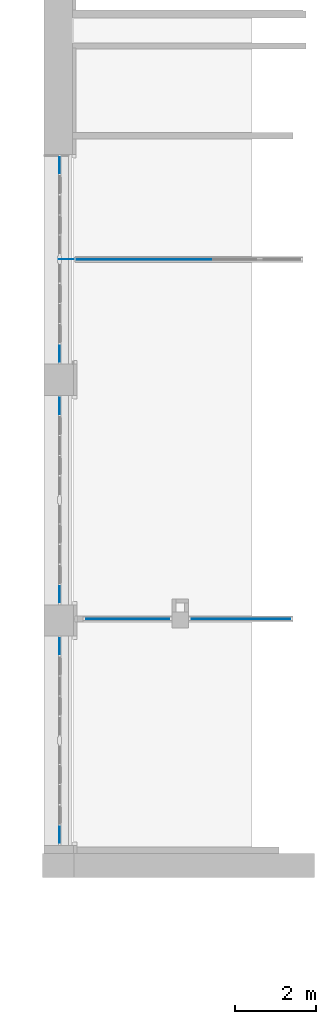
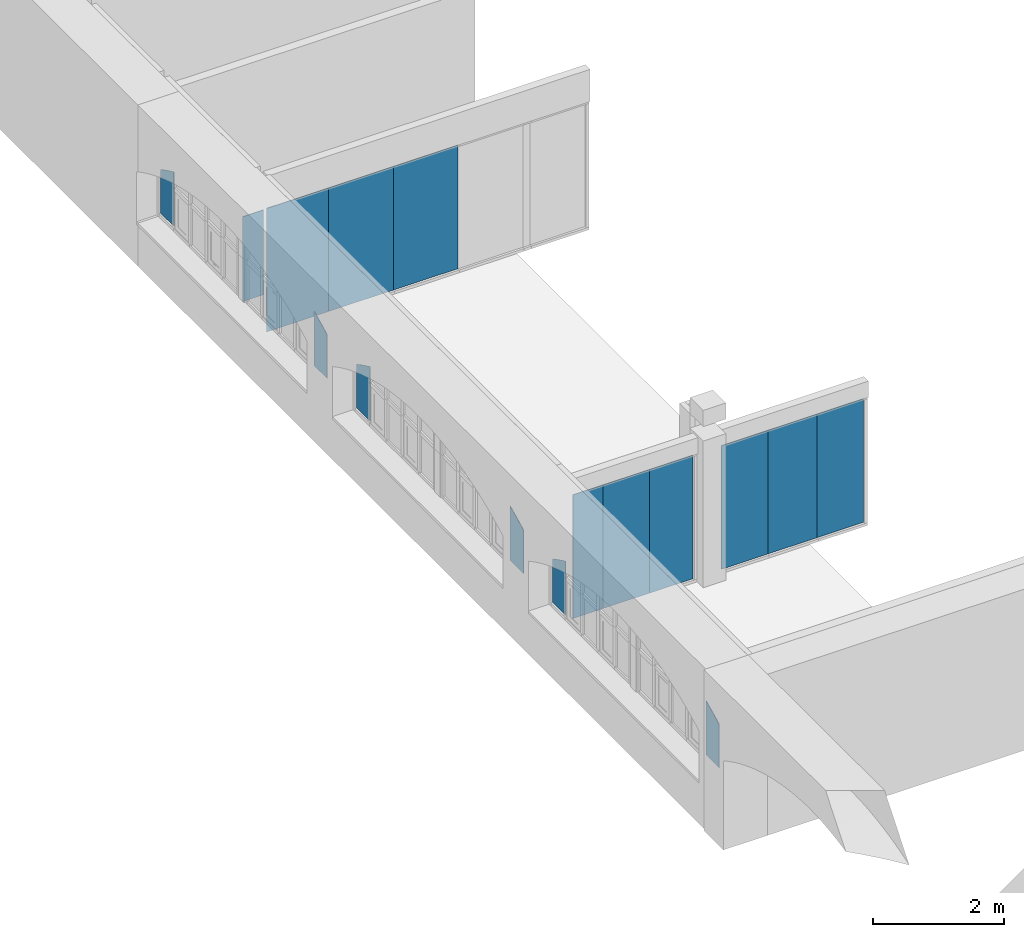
# One storey, part 21 of 32: 16 plates, 7 elements without a shape of their own.
"""IFC2X3 building model written with IfcOpenShell, lengths in millimetres."""

from ifc_helpers import new_model, entity, si_unit, converted_unit, derived_unit, direction, frame, frame_2d, origin, origin_2d_with_axis, place, context, subcontext, project, spatial, polyline, circle_curve, parameter, trimmed, segment, composite_curve, rectangle, outline, extrude, source, transform, mapped, material, type_object, type_shapes, element, aggregate, save


model = new_model("IFC2X3")

# Units and contexts
model_context = context("Model", 3, precision=0.01, world=origin(), true_north=direction((6.123031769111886e-17, 1.0)))
body_context = subcontext(model_context, "Body", "Model", "MODEL_VIEW")
ifc_project = project(units=[si_unit("LENGTHUNIT", "METRE", prefix="MILLI"), si_unit("AREAUNIT", "SQUARE_METRE"), si_unit("VOLUMEUNIT", "CUBIC_METRE"), converted_unit("PLANEANGLEUNIT", "DEGREE", entity("IfcPlaneAngleMeasure", 0.017453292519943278), si_unit("PLANEANGLEUNIT", "RADIAN"), dimensions=[0, 0, 0, 0, 0, 0, 0]), si_unit("MASSUNIT", "GRAM", prefix="KILO"), derived_unit("MASSDENSITYUNIT", [(si_unit("MASSUNIT", "GRAM", prefix="KILO"), 1), (si_unit("LENGTHUNIT", "METRE"), -3)]), derived_unit("IONCONCENTRATIONUNIT", [(si_unit("MASSUNIT", "GRAM", prefix="KILO"), 1), (si_unit("LENGTHUNIT", "METRE"), -3)]), derived_unit("MOMENTOFINERTIAUNIT", [(si_unit("LENGTHUNIT", "METRE"), 4)]), si_unit("TIMEUNIT", "SECOND"), si_unit("FREQUENCYUNIT", "HERTZ"), si_unit("THERMODYNAMICTEMPERATUREUNIT", "DEGREE_CELSIUS"), derived_unit("THERMALTRANSMITTANCEUNIT", [(si_unit("MASSUNIT", "GRAM", prefix="KILO"), 1), (si_unit("THERMODYNAMICTEMPERATUREUNIT", "KELVIN"), -1), (si_unit("TIMEUNIT", "SECOND"), -3)]), derived_unit("THERMALCONDUCTANCEUNIT", [(si_unit("MASSUNIT", "GRAM", prefix="KILO"), 1), (si_unit("THERMODYNAMICTEMPERATUREUNIT", "KELVIN"), -1), (si_unit("TIMEUNIT", "SECOND"), -3), (si_unit("LENGTHUNIT", "METRE"), 1)]), derived_unit("VOLUMETRICFLOWRATEUNIT", [(si_unit("LENGTHUNIT", "METRE", prefix="DECI"), 3), (si_unit("TIMEUNIT", "SECOND"), -1)]), derived_unit("MASSFLOWRATEUNIT", [(si_unit("MASSUNIT", "GRAM", prefix="KILO"), 1), (si_unit("TIMEUNIT", "SECOND"), -1)]), derived_unit("ROTATIONALFREQUENCYUNIT", [(si_unit("TIMEUNIT", "SECOND"), -1)]), si_unit("ELECTRICCURRENTUNIT", "AMPERE"), si_unit("ELECTRICVOLTAGEUNIT", "VOLT"), si_unit("POWERUNIT", "WATT"), si_unit("FORCEUNIT", "NEWTON", prefix="KILO"), si_unit("ILLUMINANCEUNIT", "LUX"), si_unit("LUMINOUSFLUXUNIT", "LUMEN"), si_unit("LUMINOUSINTENSITYUNIT", "CANDELA"), si_unit("ENERGYUNIT", "JOULE"), derived_unit("USERDEFINED", [(si_unit("MASSUNIT", "GRAM", prefix="KILO"), -1), (si_unit("LENGTHUNIT", "METRE"), -2), (si_unit("TIMEUNIT", "SECOND"), 3), (si_unit("LUMINOUSFLUXUNIT", "LUMEN"), 1)]), derived_unit("USERDEFINED", [(si_unit("MASSUNIT", "GRAM", prefix="KILO"), 1), (si_unit("TIMEUNIT", "SECOND"), -3), (si_unit("LENGTHUNIT", "METRE"), 3), (si_unit("ELECTRICCURRENTUNIT", "AMPERE"), -2)]), derived_unit("SOUNDPOWERUNIT", [(si_unit("MASSUNIT", "GRAM", prefix="KILO"), 1), (si_unit("TIMEUNIT", "SECOND"), -3), (si_unit("LENGTHUNIT", "METRE"), 2)]), derived_unit("SOUNDPRESSUREUNIT", [(si_unit("MASSUNIT", "GRAM", prefix="KILO"), 1), (si_unit("LENGTHUNIT", "METRE"), -1), (si_unit("TIMEUNIT", "SECOND"), -2)]), derived_unit("LINEARVELOCITYUNIT", [(si_unit("LENGTHUNIT", "METRE"), 1), (si_unit("TIMEUNIT", "SECOND"), -1)]), si_unit("PRESSUREUNIT", "PASCAL"), derived_unit("USERDEFINED", [(si_unit("MASSUNIT", "GRAM", prefix="KILO"), 1), (si_unit("LENGTHUNIT", "METRE"), -2), (si_unit("TIMEUNIT", "SECOND"), -2)]), derived_unit("LINEARFORCEUNIT", [(si_unit("MASSUNIT", "GRAM", prefix="KILO"), 1), (si_unit("TIMEUNIT", "SECOND"), -2)]), derived_unit("PLANARFORCEUNIT", [(si_unit("MASSUNIT", "GRAM", prefix="KILO"), 1), (si_unit("LENGTHUNIT", "METRE"), -1), (si_unit("TIMEUNIT", "SECOND"), -2)]), derived_unit("SPECIFICHEATCAPACITYUNIT", [(si_unit("THERMODYNAMICTEMPERATUREUNIT", "KELVIN"), -1), (si_unit("LENGTHUNIT", "METRE"), 2), (si_unit("TIMEUNIT", "SECOND"), -2)]), derived_unit("HEATFLUXDENSITYUNIT", [(si_unit("MASSUNIT", "GRAM", prefix="KILO"), 1), (si_unit("TIMEUNIT", "SECOND"), -3)]), derived_unit("HEATINGVALUEUNIT", [(si_unit("LENGTHUNIT", "METRE"), 2), (si_unit("TIMEUNIT", "SECOND"), -2)]), derived_unit("VAPORPERMEABILITYUNIT", [(si_unit("LENGTHUNIT", "METRE"), -1), (si_unit("TIMEUNIT", "SECOND"), 1)]), derived_unit("DYNAMICVISCOSITYUNIT", [(si_unit("MASSUNIT", "GRAM", prefix="KILO"), 1), (si_unit("TIMEUNIT", "SECOND"), -1), (si_unit("LENGTHUNIT", "METRE"), -1)]), derived_unit("THERMALEXPANSIONCOEFFICIENTUNIT", [(si_unit("THERMODYNAMICTEMPERATUREUNIT", "KELVIN"), -1)]), derived_unit("MODULUSOFELASTICITYUNIT", [(si_unit("MASSUNIT", "GRAM", prefix="KILO"), 1), (si_unit("LENGTHUNIT", "METRE"), -1), (si_unit("TIMEUNIT", "SECOND"), -2)]), derived_unit("ISOTHERMALMOISTURECAPACITYUNIT", [(si_unit("MASSUNIT", "GRAM", prefix="KILO"), -1), (si_unit("LENGTHUNIT", "METRE"), 3)]), derived_unit("MOISTUREDIFFUSIVITYUNIT", [(si_unit("TIMEUNIT", "SECOND"), -1), (si_unit("LENGTHUNIT", "METRE"), 2)]), derived_unit("MASSPERLENGTHUNIT", [(si_unit("MASSUNIT", "GRAM", prefix="KILO"), 1), (si_unit("LENGTHUNIT", "METRE"), -1)]), derived_unit("THERMALRESISTANCEUNIT", [(si_unit("MASSUNIT", "GRAM", prefix="KILO"), -1), (si_unit("TIMEUNIT", "SECOND"), 3), (si_unit("THERMODYNAMICTEMPERATUREUNIT", "KELVIN"), 1)]), derived_unit("ACCELERATIONUNIT", [(si_unit("LENGTHUNIT", "METRE"), 1), (si_unit("TIMEUNIT", "SECOND"), -2)]), derived_unit("ANGULARVELOCITYUNIT", [(si_unit("TIMEUNIT", "SECOND"), -1), (si_unit("PLANEANGLEUNIT", "RADIAN"), 1)]), derived_unit("LINEARSTIFFNESSUNIT", [(si_unit("MASSUNIT", "GRAM", prefix="KILO"), 1), (si_unit("TIMEUNIT", "SECOND"), -2)]), derived_unit("WARPINGCONSTANTUNIT", [(si_unit("LENGTHUNIT", "METRE"), 6)]), derived_unit("LINEARMOMENTUNIT", [(si_unit("MASSUNIT", "GRAM", prefix="KILO"), 1), (si_unit("LENGTHUNIT", "METRE"), 1), (si_unit("TIMEUNIT", "SECOND"), -2)]), derived_unit("TORQUEUNIT", [(si_unit("MASSUNIT", "GRAM", prefix="KILO"), 1), (si_unit("LENGTHUNIT", "METRE"), 2), (si_unit("TIMEUNIT", "SECOND"), -2)])], contexts=[model_context])

# Site, building, storey
site_placement = place(None, origin())
site = spatial("IfcSite", under=ifc_project, at=site_placement, Name="Default", CompositionType="ELEMENT")
building_placement = place(site_placement, origin())
building = spatial("IfcBuilding", under=site, at=building_placement, Name="Eesti Rahvusraamatukogu hoone renoveerimise projekteerimistööd", CompositionType="ELEMENT")
storey_placement = place(building_placement, frame((0.0, 0.0, 4950.000000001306)))
storey = spatial("IfcBuildingStorey", under=building, at=storey_placement, Name="2. korrus", CompositionType="ELEMENT", Elevation=4950.000000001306)

# Curtain wall, plates
curtain_wall_type_1 = type_object("IfcCurtainWallType", Name="Curtain Wall:VLS Klaasvahesein profiilita 38db", PredefinedType="NOTDEFINED")
curtain_wall_1_placement = place(storey_placement, frame((0.0, 0.0, -4950.000000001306)))
curtain_wall_1 = element("IfcCurtainWall", 1, at=curtain_wall_1_placement, inside=storey, type_object=curtain_wall_type_1, Name="Curtain Wall:VLS Klaasvahesein profiilita 38db", ObjectType="Curtain Wall:VLS Klaasvahesein profiilita 38db")
ifc_material_1 = material(Name="EST. Klaas. 1x. E-korpus")
plate_type_1 = type_object("IfcPlateType", Name="System Panel:VLS Klaas KAR/LAM 6+1+6", PredefinedType="CURTAIN_PANEL", material=ifc_material_1)
shared_shape_1 = source(origin(), body_context, "Body", "SweptSolid", [
    extrude(rectangle(XDim=13.000000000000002, YDim=1090.0000001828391, at=origin_2d_with_axis()), frame((0.0, 0.0, 0.0), z_axis=(0.0, 0.0, 1.0), x_axis=(0.0, 1.0, 0.0)), (0.0, 0.0, 1.0), 2300.0000000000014),
])
type_shapes(plate_type_1, [shared_shape_1])
plate_1_placement = place(curtain_wall_1_placement, frame((-35444.99999990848, 21350.0, 5000.0)))
plate_1 = element("IfcPlate", 2, at=plate_1_placement, type_object=plate_type_1, material=ifc_material_1, Name="System Panel:VLS Klaas KAR/LAM 6+1+6", ObjectType="System Panel:VLS Klaas KAR/LAM 6+1+6", context=body_context, shape_type="MappedRepresentation", body=[
    mapped(shared_shape_1, transform((0.0, 0.0, 0.0), scale=1.0)),
])
plate_type_2 = type_object("IfcPlateType", Name="System Panel:VLS Klaas KAR/LAM 6+1+6", PredefinedType="CURTAIN_PANEL", material=ifc_material_1)
shared_shape_2 = source(origin(), body_context, "Body", "SweptSolid", [
    extrude(rectangle(XDim=13.000000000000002, YDim=1139.9999998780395, at=frame_2d((0.0, 5.684341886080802e-14), x_axis=(1.0, 0.0))), frame((0.0, 0.0, 0.0), z_axis=(0.0, 0.0, 1.0), x_axis=(0.0, 1.0, 0.0)), (0.0, 0.0, 1.0), 2300.0000000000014),
])
type_shapes(plate_type_2, [shared_shape_2])
plate_2_placement = place(curtain_wall_1_placement, frame((-34329.99999987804, 21350.0, 5000.0)))
plate_2 = element("IfcPlate", 3, at=plate_2_placement, type_object=plate_type_2, material=ifc_material_1, Name="System Panel:VLS Klaas KAR/LAM 6+1+6", ObjectType="System Panel:VLS Klaas KAR/LAM 6+1+6", context=body_context, shape_type="MappedRepresentation", body=[
    mapped(shared_shape_2, transform((0.0, 0.0, 0.0), scale=1.0)),
])
plate_3_placement = place(curtain_wall_1_placement, frame((-33190.0, 21350.0, 5000.0)))
plate_3 = element("IfcPlate", 4, at=plate_3_placement, type_object=plate_type_2, material=ifc_material_1, Name="System Panel:VLS Klaas KAR/LAM 6+1+6", ObjectType="System Panel:VLS Klaas KAR/LAM 6+1+6", context=body_context, shape_type="MappedRepresentation", body=[
    mapped(shared_shape_2, transform((0.0, 0.0, 0.0), scale=1.0)),
])
aggregate(curtain_wall_1, [plate_1, plate_2, plate_3])

# Curtain wall, plate
curtain_wall_type_2 = type_object("IfcCurtainWallType", Name="Curtain Wall:VLS avatäide profiilita klaas", PredefinedType="NOTDEFINED")
curtain_wall_2_placement = place(storey_placement, frame((0.0, 0.0, -4950.000000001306)))
curtain_wall_2 = element("IfcCurtainWall", 5, at=curtain_wall_2_placement, inside=storey, type_object=curtain_wall_type_2, Name="Curtain Wall:VLS avatäide profiilita klaas", ObjectType="Curtain Wall:VLS avatäide profiilita klaas")
ifc_material_2 = material(Name="EST. Klaas. 3x. Default")
plate_type_3 = type_object("IfcPlateType", Name="System Panel:Peegelaknad 6-16-4-16-4, paneel", PredefinedType="CURTAIN_PANEL", material=ifc_material_2)
shared_shape_3 = source(origin(), body_context, "Body", "SweptSolid", [
    extrude(rectangle(XDim=10.0, YDim=370.0000000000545, at=origin_2d_with_axis()), frame((0.0, 0.0, 0.0), z_axis=(0.0, 0.0, 1.0), x_axis=(0.0, 1.0, 0.0)), (0.0, 0.0, 1.0), 1579.999999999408),
])
type_shapes(plate_type_3, [shared_shape_3])
plate_4_placement = place(curtain_wall_2_placement, frame((-36225.0, 21352.000000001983, 5710.000000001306), z_axis=(0.0, 0.0, 1.0), x_axis=(-1.0, 0.0, 0.0)))
plate_4 = element("IfcPlate", 6, at=plate_4_placement, type_object=plate_type_3, material=ifc_material_2, Name="System Panel:Peegelaknad 6-16-4-16-4, paneel", ObjectType="System Panel:Peegelaknad 6-16-4-16-4, paneel", context=body_context, shape_type="MappedRepresentation", body=[
    mapped(shared_shape_3, transform((0.0, 0.0, 0.0), scale=1.0)),
])
aggregate(curtain_wall_2, [plate_4])

# Curtain wall, plates
curtain_wall_3_placement = place(storey_placement, frame((0.0, 0.0, -4950.000000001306)))
curtain_wall_3 = element("IfcCurtainWall", 7, at=curtain_wall_3_placement, inside=storey, type_object=curtain_wall_type_1, Name="Curtain Wall:VLS Klaasvahesein profiilita 38db", ObjectType="Curtain Wall:VLS Klaasvahesein profiilita 38db")
plate_type_4 = type_object("IfcPlateType", Name="System Panel:VLS Klaas KAR/LAM 6+1+6", PredefinedType="CURTAIN_PANEL", material=ifc_material_1)
shared_shape_4 = source(origin(), body_context, "Body", "SweptSolid", [
    extrude(rectangle(XDim=13.000000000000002, YDim=532.1666667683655, at=origin_2d_with_axis()), frame((0.0, 0.0, 0.0), z_axis=(0.0, 0.0, 1.0), x_axis=(0.0, 1.0, 0.0)), (0.0, 0.0, 1.0), 2300.0000000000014),
])
type_shapes(plate_type_4, [shared_shape_4])
plate_5_placement = place(curtain_wall_3_placement, frame((-35489.41666661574, 12420.0, 5000.0)))
plate_5 = element("IfcPlate", 8, at=plate_5_placement, type_object=plate_type_4, material=ifc_material_1, Name="System Panel:VLS Klaas KAR/LAM 6+1+6", ObjectType="System Panel:VLS Klaas KAR/LAM 6+1+6", context=body_context, shape_type="MappedRepresentation", body=[
    mapped(shared_shape_4, transform((0.0, 0.0, 0.0), scale=1.0)),
])
plate_type_5 = type_object("IfcPlateType", Name="System Panel:VLS Klaas KAR/LAM 6+1+6", PredefinedType="CURTAIN_PANEL", material=ifc_material_1)
shared_shape_5 = source(origin(), body_context, "Body", "SweptSolid", [
    extrude(rectangle(XDim=13.000000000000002, YDim=816.6666667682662, at=origin_2d_with_axis()), frame((0.0, 0.0, 0.0), z_axis=(0.0, 0.0, 1.0), x_axis=(0.0, 1.0, 0.0)), (0.0, 0.0, 1.0), 2300.0000000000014),
])
type_shapes(plate_type_5, [shared_shape_5])
plate_6_placement = place(curtain_wall_3_placement, frame((-34815.0, 12420.0, 5000.0)))
plate_6 = element("IfcPlate", 9, at=plate_6_placement, type_object=plate_type_5, material=ifc_material_1, Name="System Panel:VLS Klaas KAR/LAM 6+1+6", ObjectType="System Panel:VLS Klaas KAR/LAM 6+1+6", context=body_context, shape_type="MappedRepresentation", body=[
    mapped(shared_shape_5, transform((0.0, 0.0, 0.0), scale=1.0)),
])

curtain_wall_4_placement = place(storey_placement, frame((0.0, 0.0, -4950.000000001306)))
curtain_wall_4 = element("IfcCurtainWall", 10, at=curtain_wall_4_placement, inside=storey, type_object=curtain_wall_type_1, Name="Curtain Wall:VLS Klaasvahesein profiilita 38db", ObjectType="Curtain Wall:VLS Klaasvahesein profiilita 38db")
plate_7_placement = place(curtain_wall_4_placement, frame((-32731.666666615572, 12420.0, 5000.0)))
plate_7 = element("IfcPlate", 11, at=plate_7_placement, type_object=plate_type_5, material=ifc_material_1, Name="System Panel:VLS Klaas KAR/LAM 6+1+6", ObjectType="System Panel:VLS Klaas KAR/LAM 6+1+6", context=body_context, shape_type="MappedRepresentation", body=[
    mapped(shared_shape_5, transform((0.0, 0.0, 0.0), scale=1.0)),
])
plate_8_placement = place(curtain_wall_4_placement, frame((-31048.33333338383, 12420.0, 5000.0)))
plate_8 = element("IfcPlate", 12, at=plate_8_placement, type_object=plate_type_5, material=ifc_material_1, Name="System Panel:VLS Klaas KAR/LAM 6+1+6", ObjectType="System Panel:VLS Klaas KAR/LAM 6+1+6", context=body_context, shape_type="MappedRepresentation", body=[
    mapped(shared_shape_5, transform((0.0, 0.0, 0.0), scale=1.0)),
])

# Plate
plate_type_6 = type_object("IfcPlateType", Name="System Panel:VLS Klaas KAR/LAM 6+1+6", PredefinedType="CURTAIN_PANEL", material=ifc_material_1)
shared_shape_6 = source(origin(), body_context, "Body", "SweptSolid", [
    extrude(rectangle(XDim=13.000000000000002, YDim=766.6666667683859, at=origin_2d_with_axis()), frame((0.0, 0.0, 0.0), z_axis=(0.0, 0.0, 1.0), x_axis=(0.0, 1.0, 0.0)), (0.0, 0.0, 1.0), 2300.0000000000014),
])
type_shapes(plate_type_6, [shared_shape_6])
plate_9_placement = place(curtain_wall_3_placement, frame((-34023.33333338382, 12420.0, 5000.0)))
plate_9 = element("IfcPlate", 13, at=plate_9_placement, type_object=plate_type_6, material=ifc_material_1, Name="System Panel:VLS Klaas KAR/LAM 6+1+6", ObjectType="System Panel:VLS Klaas KAR/LAM 6+1+6", context=body_context, shape_type="MappedRepresentation", body=[
    mapped(shared_shape_6, transform((0.0, 0.0, 0.0), scale=1.0)),
])

aggregate(curtain_wall_3, [plate_5, plate_6, plate_9])

plate_type_7 = type_object("IfcPlateType", Name="System Panel:VLS Klaas KAR/LAM 6+1+6", PredefinedType="CURTAIN_PANEL", material=ifc_material_1)
shared_shape_7 = source(origin(), body_context, "Body", "SweptSolid", [
    extrude(rectangle(XDim=13.000000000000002, YDim=866.6666664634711, at=origin_2d_with_axis()), frame((0.0, 0.0, 0.0), z_axis=(0.0, 0.0, 1.0), x_axis=(0.0, 1.0, 0.0)), (0.0, 0.0, 1.0), 2300.0000000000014),
])
type_shapes(plate_type_7, [shared_shape_7])
plate_10_placement = place(curtain_wall_4_placement, frame((-31890.0, 12420.0, 5000.0)))
plate_10 = element("IfcPlate", 14, at=plate_10_placement, type_object=plate_type_7, material=ifc_material_1, Name="System Panel:VLS Klaas KAR/LAM 6+1+6", ObjectType="System Panel:VLS Klaas KAR/LAM 6+1+6", context=body_context, shape_type="MappedRepresentation", body=[
    mapped(shared_shape_7, transform((0.0, 0.0, 0.0), scale=1.0)),
])

aggregate(curtain_wall_4, [plate_7, plate_10, plate_8])

# Curtain wall, plate
curtain_wall_type_3 = type_object("IfcCurtainWallType", Name="Curtain Wall:Ak-04", PredefinedType="NOTDEFINED")
curtain_wall_5_placement = place(storey_placement, frame((0.0, 0.0, -4950.000000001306)))
curtain_wall_5 = element("IfcCurtainWall", 15, at=curtain_wall_5_placement, inside=storey, type_object=curtain_wall_type_3, Name="Curtain Wall:Ak-04", ObjectType="Curtain Wall:Ak-04")
plate_type_8 = type_object("IfcPlateType", Name="System Panel:Peegelaknad 6-16-4-16-4, paneel", PredefinedType="CURTAIN_PANEL", material=ifc_material_2)
shared_shape_8 = source(origin(), body_context, "Body", "SweptSolid", [
    extrude(outline(composite_curve([segment(polyline([(-550.0682901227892, -200.0), (189.93170987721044, -200.0)]), True, "CONTINUOUS"), segment(polyline([(189.93170987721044, -200.0), (261.6098701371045, -200.0)]), True, "CONTINUOUS"), segment(trimmed(circle_curve(frame_2d((-4389.844409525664, 2340.0), x_axis=(0.9206661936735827, -0.3903508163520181)), 5299.7761194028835), [parameter(354.3388865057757)], [parameter(359.16096527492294)], True, "PARAMETER"), True, "CONTINUOUS"), segment(polyline([(458.66329035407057, 200.0), (189.93170987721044, 200.0)]), True, "CONTINUOUS"), segment(polyline([(189.93170987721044, 200.0), (-550.0682901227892, 200.0)]), True, "CONTINUOUS"), segment(polyline([(-550.0682901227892, 200.0), (-550.0682901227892, -200.0)]), True, "CONTINUOUS")], self_intersect=False)), frame((0.0, -5.0, 550.0682901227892), z_axis=(0.0, 1.0, 0.0), x_axis=(0.0, 0.0, 1.0)), (0.0, 0.0, 1.0), 10.0),
])
type_shapes(plate_type_8, [shared_shape_8])
plate_11_placement = place(curtain_wall_5_placement, frame((-36383.999999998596, 23688.69559197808, 5810.000000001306), z_axis=(0.0, 0.0, 1.0), x_axis=(0.0, -1.0, 0.0)))
plate_11 = element("IfcPlate", 16, at=plate_11_placement, type_object=plate_type_8, material=ifc_material_2, Name="System Panel:Peegelaknad 6-16-4-16-4, paneel", ObjectType="System Panel:Peegelaknad 6-16-4-16-4, paneel", context=body_context, shape_type="MappedRepresentation", body=[
    mapped(shared_shape_8, transform((0.0, 0.0, 0.0), scale=1.0)),
])

curtain_wall_6_placement = place(storey_placement, frame((0.0, 0.0, -4950.000000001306)))
curtain_wall_6 = element("IfcCurtainWall", 17, at=curtain_wall_6_placement, inside=storey, type_object=curtain_wall_type_3, Name="Curtain Wall:Ak-04", ObjectType="Curtain Wall:Ak-04")
plate_12_placement = place(curtain_wall_6_placement, frame((-36383.999999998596, 17708.69559197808, 5810.000000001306), z_axis=(0.0, 0.0, 1.0), x_axis=(0.0, -1.0, 0.0)))
plate_12 = element("IfcPlate", 18, at=plate_12_placement, type_object=plate_type_8, material=ifc_material_2, Name="System Panel:Peegelaknad 6-16-4-16-4, paneel", ObjectType="System Panel:Peegelaknad 6-16-4-16-4, paneel", context=body_context, shape_type="MappedRepresentation", body=[
    mapped(shared_shape_8, transform((0.0, 0.0, 0.0), scale=1.0)),
])

curtain_wall_7_placement = place(storey_placement, frame((0.0, 0.0, -4950.000000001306)))
curtain_wall_7 = element("IfcCurtainWall", 19, at=curtain_wall_7_placement, inside=storey, type_object=curtain_wall_type_3, Name="Curtain Wall:Ak-04", ObjectType="Curtain Wall:Ak-04")
plate_13_placement = place(curtain_wall_7_placement, frame((-36383.999999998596, 11736.599999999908, 5810.000000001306), z_axis=(0.0, 0.0, 1.0), x_axis=(0.0, -1.0, 0.0)))
plate_13 = element("IfcPlate", 20, at=plate_13_placement, type_object=plate_type_8, material=ifc_material_2, Name="System Panel:Peegelaknad 6-16-4-16-4, paneel", ObjectType="System Panel:Peegelaknad 6-16-4-16-4, paneel", context=body_context, shape_type="MappedRepresentation", body=[
    mapped(shared_shape_8, transform((0.0, 0.0, 0.0), scale=1.0)),
])

# Plate
plate_type_9 = type_object("IfcPlateType", Name="System Panel:Peegelaknad 6-16-4-16-4, paneel", PredefinedType="CURTAIN_PANEL", material=ifc_material_2)
shared_shape_9 = source(origin(), body_context, "Body", "SweptSolid", [
    extrude(outline(composite_curve([segment(polyline([(-550.0682901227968, 200.0), (-550.0682901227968, -200.0)]), True, "CONTINUOUS"), segment(polyline([(-550.0682901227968, -200.0), (189.93170987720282, -200.0)]), True, "CONTINUOUS"), segment(polyline([(189.93170987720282, -200.0), (261.60987013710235, -200.0)]), True, "CONTINUOUS"), segment(trimmed(circle_curve(frame_2d((-4389.8444095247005, 2340.0), x_axis=(0.8754595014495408, -0.48329148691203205)), 5299.77611940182), [parameter(0.2631523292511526)], [parameter(5.085231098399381)], True, "PARAMETER"), True, "CONTINUOUS"), segment(polyline([(458.66329035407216, 200.0), (189.93170987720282, 200.0)]), True, "CONTINUOUS"), segment(polyline([(189.93170987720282, 200.0), (-550.0682901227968, 200.0)]), True, "CONTINUOUS")], self_intersect=False)), frame((0.0, -5.0, 550.0682901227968), z_axis=(0.0, -1.0, 0.0), x_axis=(0.0, 0.0, 1.0)), (0.0, 0.0, -1.0), 10.0),
])
type_shapes(plate_type_9, [shared_shape_9])
plate_14_placement = place(curtain_wall_5_placement, frame((-36383.9999999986, 19008.695591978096, 5810.000000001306), z_axis=(0.0, 0.0, 1.0), x_axis=(0.0, -1.0, 0.0)))
plate_14 = element("IfcPlate", 21, at=plate_14_placement, type_object=plate_type_9, material=ifc_material_2, Name="System Panel:Peegelaknad 6-16-4-16-4, paneel", ObjectType="System Panel:Peegelaknad 6-16-4-16-4, paneel", context=body_context, shape_type="MappedRepresentation", body=[
    mapped(shared_shape_9, transform((0.0, 0.0, 0.0), scale=1.0)),
])

aggregate(curtain_wall_5, [plate_11, plate_14])

plate_15_placement = place(curtain_wall_6_placement, frame((-36383.9999999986, 13028.695591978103, 5810.000000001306), z_axis=(0.0, 0.0, 1.0), x_axis=(0.0, -1.0, 0.0)))
plate_15 = element("IfcPlate", 22, at=plate_15_placement, type_object=plate_type_9, material=ifc_material_2, Name="System Panel:Peegelaknad 6-16-4-16-4, paneel", ObjectType="System Panel:Peegelaknad 6-16-4-16-4, paneel", context=body_context, shape_type="MappedRepresentation", body=[
    mapped(shared_shape_9, transform((0.0, 0.0, 0.0), scale=1.0)),
])

aggregate(curtain_wall_6, [plate_12, plate_15])

plate_16_placement = place(curtain_wall_7_placement, frame((-36383.9999999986, 7056.59999999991, 5810.000000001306), z_axis=(0.0, 0.0, 1.0), x_axis=(0.0, -1.0, 0.0)))
plate_16 = element("IfcPlate", 23, at=plate_16_placement, type_object=plate_type_9, material=ifc_material_2, Name="System Panel:Peegelaknad 6-16-4-16-4, paneel", ObjectType="System Panel:Peegelaknad 6-16-4-16-4, paneel", context=body_context, shape_type="MappedRepresentation", body=[
    mapped(shared_shape_9, transform((0.0, 0.0, 0.0), scale=1.0)),
])

aggregate(curtain_wall_7, [plate_13, plate_16])

save(model, "model.ifc")
